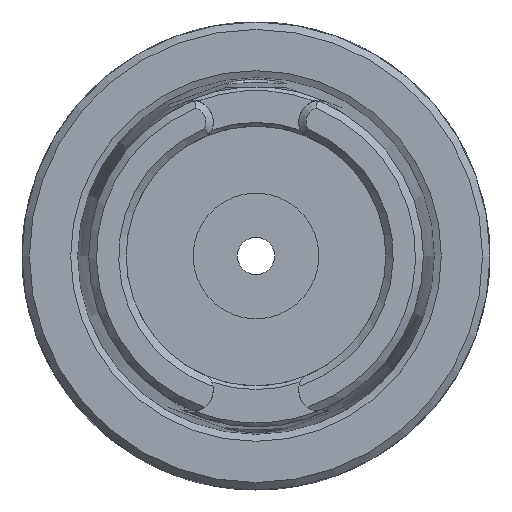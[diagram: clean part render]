
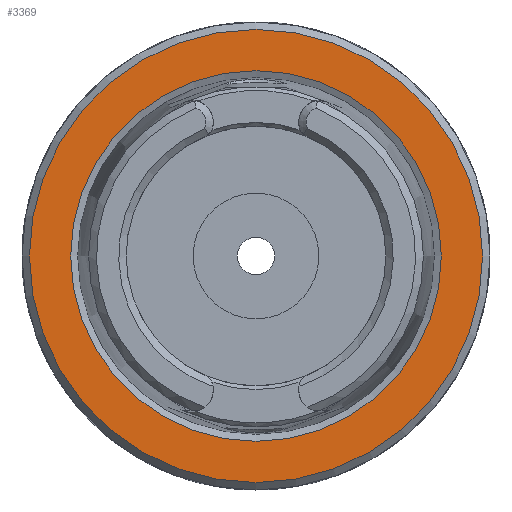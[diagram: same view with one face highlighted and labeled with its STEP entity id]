
A CAD part, left-side view. The second image highlights one B-rep face of the part: STEP entity #3369.
In plain terms, the highlighted planar face has unit normal (-1, 0, 0).
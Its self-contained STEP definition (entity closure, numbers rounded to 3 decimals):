
#89=FACE_BOUND('',#850,.T.);
#465=CIRCLE('',#3675,30.5);
#466=CIRCLE('',#3677,24.95);
#650=FACE_OUTER_BOUND('',#849,.T.);
#849=EDGE_LOOP('',(#3024));
#850=EDGE_LOOP('',(#3025));
#1533=VERTEX_POINT('',#7909);
#1534=VERTEX_POINT('',#7913);
#2034=EDGE_CURVE('',#1533,#1533,#465,.T.);
#2035=EDGE_CURVE('',#1534,#1534,#466,.T.);
#3024=ORIENTED_EDGE('',*,*,#2034,.F.);
#3025=ORIENTED_EDGE('',*,*,#2035,.T.);
#3154=PLANE('',#3676);
#3369=ADVANCED_FACE('',(#650,#89),#3154,.T.);
#3675=AXIS2_PLACEMENT_3D('',#7911,#4327,#4328);
#3676=AXIS2_PLACEMENT_3D('',#7912,#4329,#4330);
#3677=AXIS2_PLACEMENT_3D('',#7914,#4331,#4332);
#4327=DIRECTION('center_axis',(1.,0.,0.));
#4328=DIRECTION('ref_axis',(0.,-1.,0.));
#4329=DIRECTION('center_axis',(-1.,0.,0.));
#4330=DIRECTION('ref_axis',(0.,0.,1.));
#4331=DIRECTION('center_axis',(1.,0.,0.));
#4332=DIRECTION('ref_axis',(0.,0.,-1.));
#7909=CARTESIAN_POINT('',(-21.6,30.5,0.));
#7911=CARTESIAN_POINT('Origin',(-21.6,0.,0.));
#7912=CARTESIAN_POINT('Origin',(-21.6,31.5,0.));
#7913=CARTESIAN_POINT('',(-21.6,-24.95,0.));
#7914=CARTESIAN_POINT('Origin',(-21.6,0.,0.));
